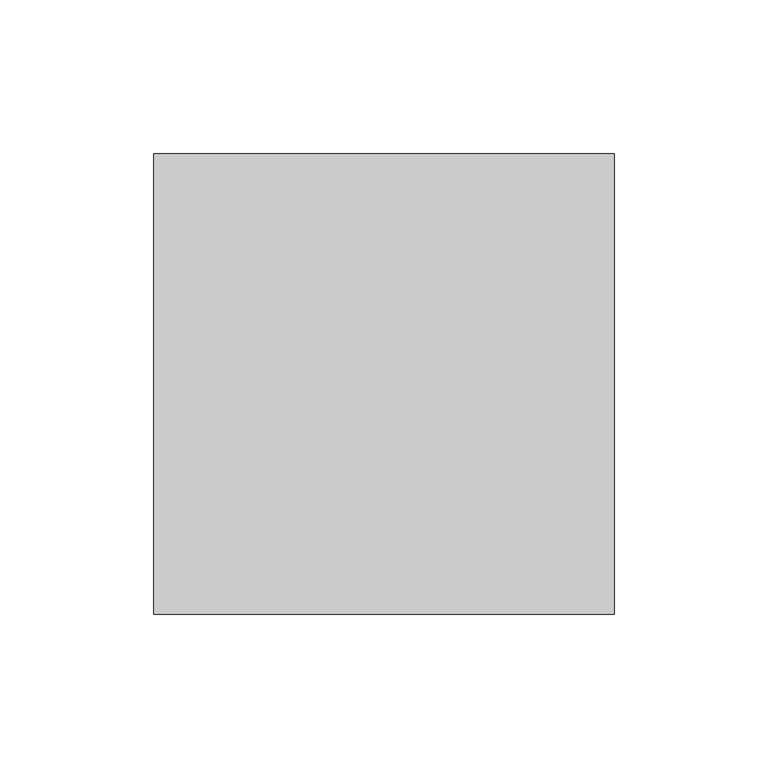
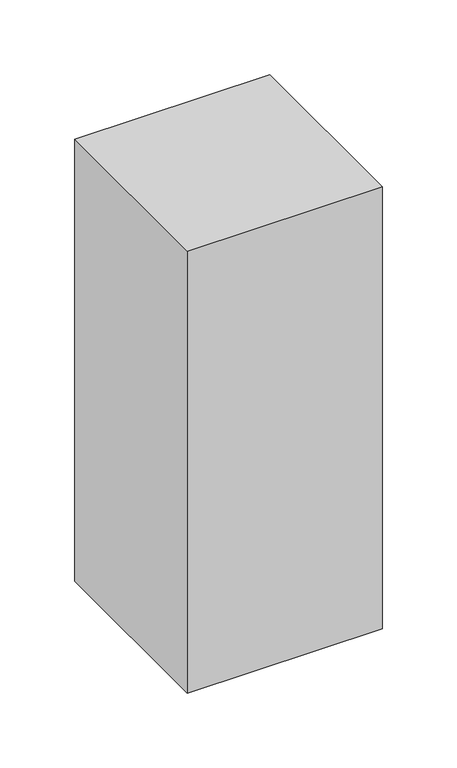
"""IFC4 building model written with IfcOpenShell, lengths in millimetres: proxy geometry, Брус : 150х150."""

from ifc_helpers import new_model, si_unit, origin, origin_with_axes, place, context, project, spatial, polyline, outline, extrude, source, transform, mapped, element, save


def generic_models_1b29908c(model_context):
    return source(origin(), model_context, "Body", "SweptSolid", [
        extrude(outline(polyline([(150.0, 0.0), (0.0, 0.0), (0.0, 150.0), (150.0, 150.0), (150.0, 0.0)])), origin_with_axes(), (0.0, 0.0, 1.0), 360.0),
    ])


if __name__ == "__main__":
    model = new_model("IFC4")
    model_context = context("Model", 3, world=origin())
    ifc_project = project(units=[si_unit("LENGTHUNIT", "METRE", prefix="MILLI")], contexts=[model_context])
    site = spatial("IfcSite", under=ifc_project)
    building = spatial("IfcBuilding", under=site)
    placement = place(None, origin())
    generic_models_shape = generic_models_1b29908c(model_context)
    element("IfcBuildingElementProxy", 1, Name="Брус : 150х150", ObjectType="Брус : 150х150", at=placement, inside=building, context=model_context, shape_type="MappedRepresentation", body=[
        mapped(generic_models_shape, transform((0.0, 0.0, 0.0), x_axis=(1.0, 0.0, 0.0), y_axis=(0.0, 1.0, 0.0), z_axis=(0.0, 0.0, 1.0))),
    ])
    save(model, "model.ifc")
